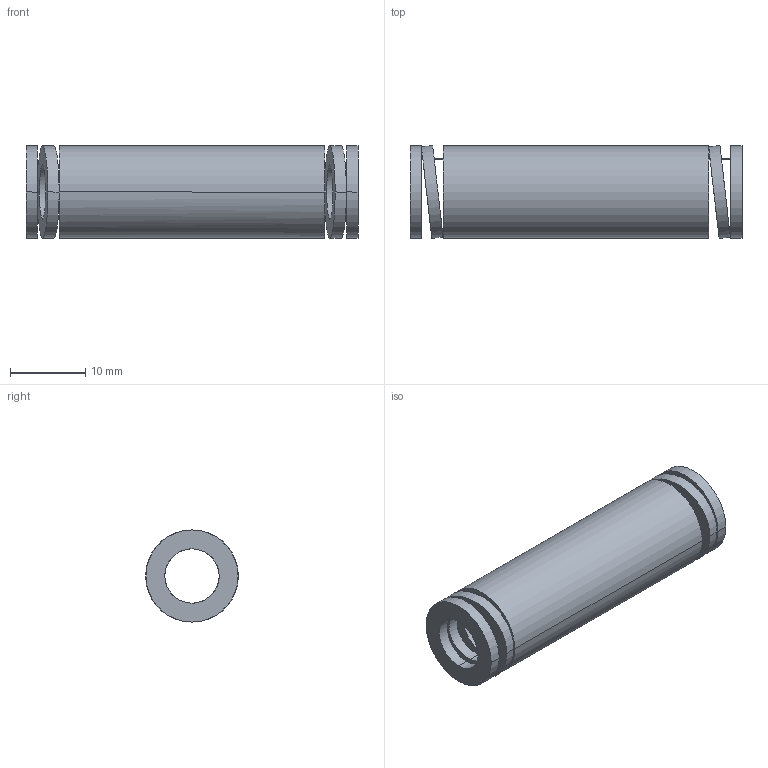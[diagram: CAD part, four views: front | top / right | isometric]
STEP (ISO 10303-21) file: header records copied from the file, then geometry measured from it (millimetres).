
FILE_DESCRIPTION(('CATIA V5 STEP Exchange'),'2;1');
FILE_NAME('C:\Users\Utente\Desktop\IO LAVORO\3D X SITO CF\X SITO\3D files 392B\392-B13-044.stp','2021-08-12T12:48:46+00:00',('none'),('none'),'CATIA Version 5 Release 20 GA (IN-10)','CATIA V5 STEP AP203','none');
FILE_SCHEMA(('CONFIG_CONTROL_DESIGN'));
Length unit declared in the file: millimetre
Products named in the file (1): 392-B13-044
Bounding box: 44 x 12.29 x 12.2 mm (x, y, z)
Volume: 3133.7 mm3; surface area: 3270.3 mm2
Topology: 1 solids, 1 shells, 38 faces, 92 edges, 64 vertices
Faces by surface type: cylinder 28, plane 10
Entity records: 1563 total; most frequent: CARTESIAN_POINT 670, ORIENTED_EDGE 184, DIRECTION 131, EDGE_CURVE 92, AXIS2_PLACEMENT_3D 66, VERTEX_POINT 64, EDGE_LOOP 56, ADVANCED_FACE 38
